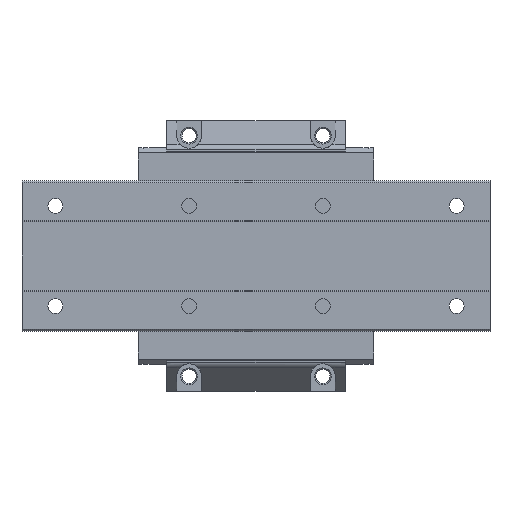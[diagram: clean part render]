
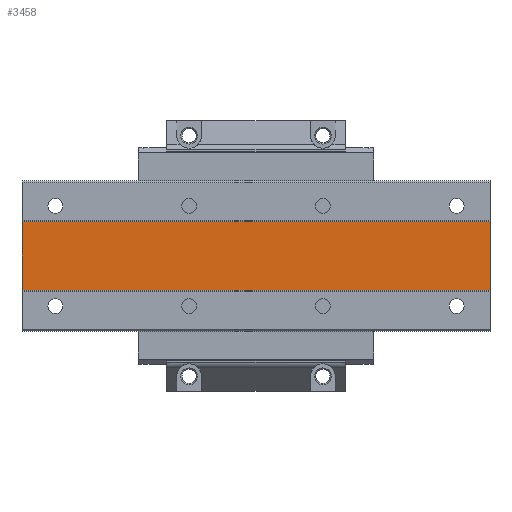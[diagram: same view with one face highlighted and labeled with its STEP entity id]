
A CAD part, front view. The second image highlights one B-rep face of the part: STEP entity #3458.
In plain terms, the highlighted planar face has unit normal (0, -1, 0).
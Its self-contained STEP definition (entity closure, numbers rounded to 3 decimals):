
#84=PLANE('',#3692);
#208=LINE('',#5139,#538);
#209=LINE('',#5143,#539);
#210=LINE('',#5145,#540);
#211=LINE('',#5147,#541);
#538=VECTOR('',#4079,1000.);
#539=VECTOR('',#4084,1000.);
#540=VECTOR('',#4085,1000.);
#541=VECTOR('',#4086,1000.);
#881=ORIENTED_EDGE('',*,*,#1869,.T.);
#882=ORIENTED_EDGE('',*,*,#1870,.F.);
#883=ORIENTED_EDGE('',*,*,#1871,.F.);
#884=ORIENTED_EDGE('',*,*,#1867,.T.);
#1867=EDGE_CURVE('',#2360,#2359,#208,.T.);
#1869=EDGE_CURVE('',#2359,#2361,#209,.T.);
#1870=EDGE_CURVE('',#2362,#2361,#210,.T.);
#1871=EDGE_CURVE('',#2360,#2362,#211,.T.);
#2359=VERTEX_POINT('',#5138);
#2360=VERTEX_POINT('',#5140);
#2361=VERTEX_POINT('',#5144);
#2362=VERTEX_POINT('',#5146);
#2848=EDGE_LOOP('',(#881,#882,#883,#884));
#3122=FACE_BOUND('',#2848,.T.);
#3458=ADVANCED_FACE('',(#3122),#84,.F.);
#3692=AXIS2_PLACEMENT_3D('',#5142,#4082,#4083);
#4079=DIRECTION('',(-1.,0.,0.));
#4082=DIRECTION('',(0.,1.,0.));
#4083=DIRECTION('',(0.,0.,1.));
#4084=DIRECTION('',(0.,0.,-1.));
#4085=DIRECTION('',(-1.,0.,0.));
#4086=DIRECTION('',(0.,0.,-1.));
#5138=CARTESIAN_POINT('',(-20.,0.5,20.55));
#5139=CARTESIAN_POINT('',(260.,0.5,20.55));
#5140=CARTESIAN_POINT('',(260.,0.5,20.55));
#5142=CARTESIAN_POINT('',(260.,0.5,20.55));
#5143=CARTESIAN_POINT('',(-20.,0.5,20.55));
#5144=CARTESIAN_POINT('',(-20.,0.5,-20.55));
#5145=CARTESIAN_POINT('',(260.,0.5,-20.55));
#5146=CARTESIAN_POINT('',(260.,0.5,-20.55));
#5147=CARTESIAN_POINT('',(260.,0.5,20.55));
